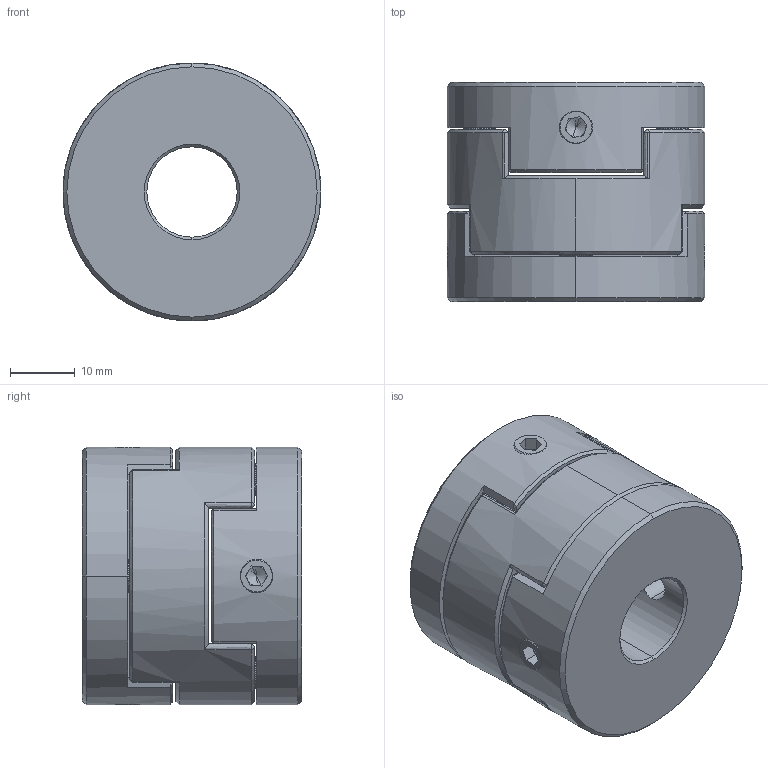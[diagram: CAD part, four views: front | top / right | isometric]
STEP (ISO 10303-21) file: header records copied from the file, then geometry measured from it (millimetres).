
FILE_DESCRIPTION (( 'STEP AP203' ), '1' );
FILE_NAME ('LZ-D-D40L35-14-14.STEP', '2021-10-30T05:21:05', ( '' ), ( '' ), 'SwSTEP 2.0', 'SolidWorks 2018', '' );
FILE_SCHEMA (( 'CONFIG_CONTROL_DESIGN' ));
Length unit declared in the file: millimetre
Products named in the file (1): LZ-D-D40L35-14-14
Bounding box: 40 x 34 x 40 mm (x, y, z)
Volume: 35084.2 mm3; surface area: 12440.6 mm2
Topology: 1 solids, 1 shells, 217 faces, 542 edges, 327 vertices
Faces by surface type: plane 88, bspline 55, cone 48, cylinder 26
Entity records: 7736 total; most frequent: CARTESIAN_POINT 3013, ORIENTED_EDGE 1068, DIRECTION 796, EDGE_CURVE 534, VERTEX_POINT 327, AXIS2_PLACEMENT_3D 289, EDGE_LOOP 243, VECTOR 218
